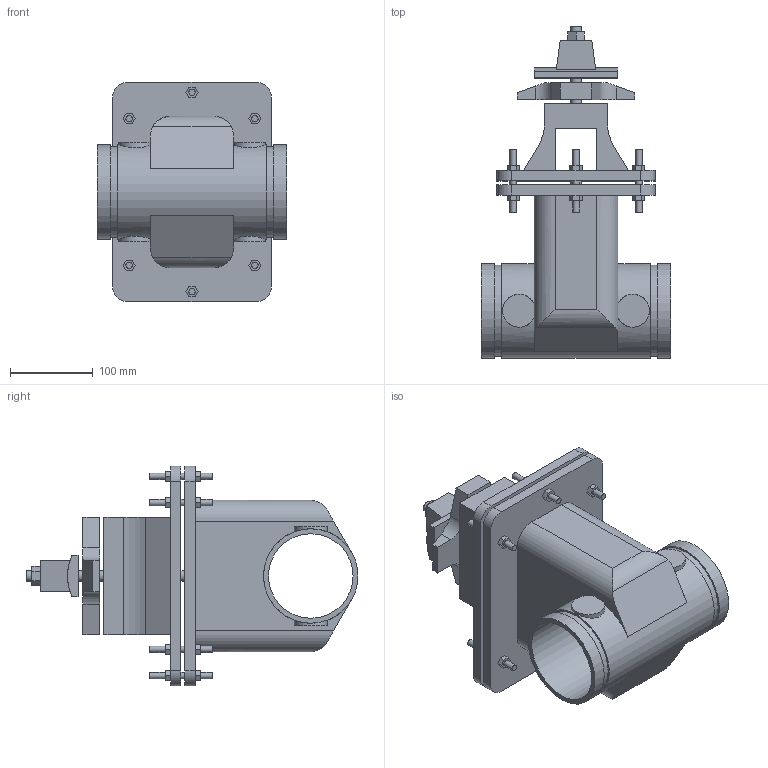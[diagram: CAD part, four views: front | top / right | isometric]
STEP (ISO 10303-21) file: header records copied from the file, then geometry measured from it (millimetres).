
FILE_DESCRIPTION(/* description */ ('VIC GATE VALVE SERIES 772H NRS','CAx-IF Rec.Pracs.---Representation and Presentation of Product Manufacturing Information (PMI)---4.0---2014-10-13'),/* implementation_level */ '2;1');
FILE_NAME(/* name */ 'C:\Users\Vjadhav\AppData\Roaming\Autodesk\ApplicationPlugins\Back Up\Victaulic_FP-FireLock_Valve Gate NRS_Series 772H (OGS)\Victaulic_FP-FireLock_Valve Gate NRS_Series 772H (OGS)_4 (100).stp',/* time_stamp */ '2020-07-20T15:49:30+05:00',/* author */ ('kkamble'),/* organization */ ('Victaulic'),/* preprocessor_version */ 'ST-DEVELOPER v17.2',/* originating_system */ 'Autodesk Inventor 2019',/* authorisation */ '');
FILE_SCHEMA (('AP242_MANAGED_MODEL_BASED_3D_ENGINEERING_MIM_LF { 1 0 10303 442 1 1 4 }'));
Length unit declared in the file: inch
Products named in the file (1): 772H-04.0
Bounding box: 229.01 x 402.08 x 265.94 mm (x, y, z)
Volume: 4975764.4 mm3; surface area: 539096.4 mm2
Topology: 1 solids, 1 shells, 221 faces, 551 edges, 371 vertices
Faces by surface type: plane 168, cylinder 53
Full cylindrical faces by diameter (mm): 7.62 x18, 12.7 x4, 102.394 x1, 110.084 x2, 114.3 x3
Entity records: 7205 total; most frequent: CARTESIAN_POINT 1393, DIRECTION 1142, ORIENTED_EDGE 1102, EDGE_CURVE 551, LINE 422, VECTOR 422, VERTEX_POINT 371, AXIS2_PLACEMENT_3D 360
